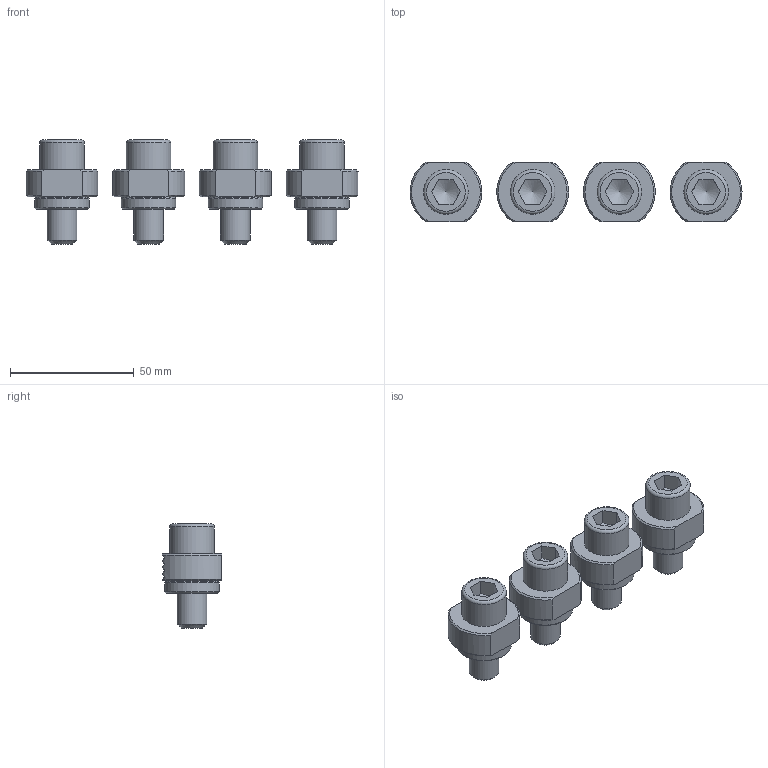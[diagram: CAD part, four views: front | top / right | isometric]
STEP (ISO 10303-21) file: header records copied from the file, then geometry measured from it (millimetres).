
FILE_DESCRIPTION(('STEP AP214'), '1');
FILE_NAME('BB.VS.100.51.111 捘', '', ('UNSPECIFIED'), ('UNSPECIFIED'), 'C3D Converter', 'C3D Toolkit', '');
FILE_SCHEMA(('AUTOMOTIVE_DESIGN { 1 0 10303 214 3 1 1}'));
Length unit declared in the file: millimetre
Products named in the file (2): BB.VS.100.51.111 СБ
Assembly tree (4 placements, depth 2):
  BB.VS.100.51.111 СБ
    BB.VS.100.51.111 СБ  x4
Bounding box: 134 x 24 x 42 mm (x, y, z)
Volume: 48222.9 mm3; surface area: 20683.9 mm2
Topology: 4 solids, 4 shells, 200 faces, 484 edges, 308 vertices
Faces by surface type: plane 104, cone 44, cylinder 40, torus 12
Full cylindrical faces by diameter (mm): 12 x4, 13 x4, 18 x4, 22 x4
Entity records: 2171 total; most frequent: CARTESIAN_POINT 983, ORIENTED_EDGE 212, DIRECTION 200, EDGE_CURVE 106, AXIS2_PLACEMENT_3D 80, VERTEX_POINT 76, EDGE_LOOP 68, ADVANCED_FACE 50
